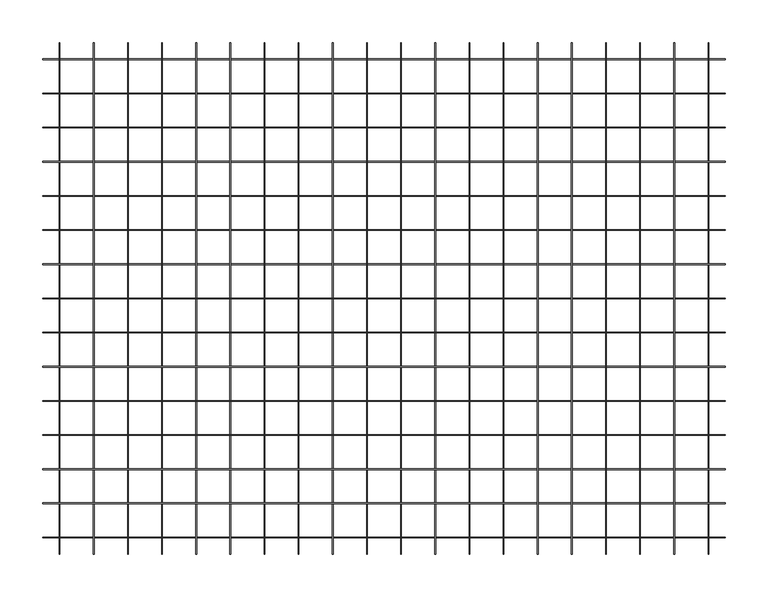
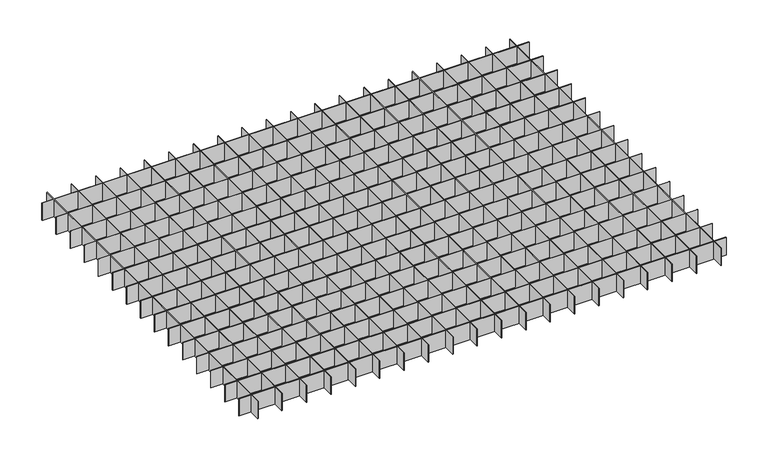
"""IFC4 building model written with IfcOpenShell, lengths in millimetres: proxy geometry, durlum_QUADRA_panel : durlum_QUADRA_length_cut."""

import ifcopenshell
import ifcopenshell.guid

model = None  # the IFC model being written
_history = None  # IfcOwnerHistory: only IFC2X3 demands one
_inside = {}  # id of a spatial element -> (the spatial element, [elements in it])
_under = {}  # id of a project, library or spatial element -> (it, [spatial elements below it])
_declared = {}  # id of a project -> (the project, [libraries it declares])
_typed = {}  # id of a type object -> (the type object, [elements of that type])
_made_of = {}  # id of a material, layer set ... -> (it, [elements and type objects made of it])


def new_model(schema):
    """Start an empty IFC model of exactly this schema.

    Asked for "IFC4X3", IfcOpenShell would pick the latest addendum, in which some entities
    have other attributes; the version numbers below select the first issue.
    IFC2X3 requires an IfcOwnerHistory on every rooted entity: one is made here for all.
    """
    global model, _history
    if schema == "IFC4X3":
        model = ifcopenshell.file(schema_version=(4, 3, 0, 0))
    else:
        model = ifcopenshell.file(schema=schema)
    _inside.clear()
    _under.clear()
    _declared.clear()
    _typed.clear()
    _made_of.clear()
    _history = None
    if model.schema == "IFC2X3":
        org = make("IfcOrganization", Name="unknown")
        user = make(
            "IfcPersonAndOrganization",
            ThePerson=make("IfcPerson", FamilyName="unknown"),
            TheOrganization=org,
        )
        app = make(
            "IfcApplication",
            ApplicationDeveloper=org,
            Version="unknown",
            ApplicationFullName="unknown",
            ApplicationIdentifier="unknown",
        )
        _history = make(
            "IfcOwnerHistory",
            OwningUser=user,
            OwningApplication=app,
            ChangeAction="ADDED",
            CreationDate=0,
        )
    return model


def make(cls, **values):
    """One entity of the class cls with the attributes given. An attribute that is None is left unset."""
    return model.create_entity(
        cls, **{name: value for name, value in values.items() if value is not None}
    )


def rooted(cls, **values):
    """An entity with a GlobalId (a new one), such as an element, a storey or a relation."""
    return make(cls, GlobalId=ifcopenshell.guid.new(), OwnerHistory=_history, **values)


def si_unit(unit_type, name, prefix=None):
    """IfcSIUnit, for example si_unit("LENGTHUNIT", "METRE", prefix="MILLI")."""
    return make("IfcSIUnit", UnitType=unit_type, Prefix=prefix, Name=name)


def assignment(units):
    """IfcUnitAssignment: the units of a project."""
    return None if units is None else make("IfcUnitAssignment", Units=units)


def point(xyz):
    """IfcCartesianPoint."""
    return None if xyz is None else make("IfcCartesianPoint", Coordinates=xyz)


def direction(xyz):
    """IfcDirection."""
    return None if xyz is None else make("IfcDirection", DirectionRatios=xyz)


def frame(location, z_axis=None, x_axis=None):
    """IfcAxis2Placement3D, a coordinate frame: its origin and axes. An axis left out is left unset."""
    return make(
        "IfcAxis2Placement3D",
        Location=point(location),
        Axis=direction(z_axis),
        RefDirection=direction(x_axis),
    )


def origin():
    """The frame at (0, 0, 0) with its axes left unset."""
    return frame((0.0, 0.0, 0.0))


def origin_with_axes():
    """The frame at (0, 0, 0) with the z axis (0, 0, 1) and the x axis (1, 0, 0) written out."""
    return frame((0.0, 0.0, 0.0), z_axis=(0.0, 0.0, 1.0), x_axis=(1.0, 0.0, 0.0))


def place(relative_to, where):
    """IfcLocalPlacement: puts the frame where relative to a parent placement (None: the world)."""
    return make(
        "IfcLocalPlacement", PlacementRelTo=relative_to, RelativePlacement=where
    )


def context(
    kind, dimensions, precision=None, world=None, true_north=None, identifier=None
):
    """IfcGeometricRepresentationContext, for example the 3D "Model" context."""
    return make(
        "IfcGeometricRepresentationContext",
        ContextIdentifier=identifier,
        ContextType=kind,
        CoordinateSpaceDimension=dimensions,
        Precision=precision,
        WorldCoordinateSystem=world,
        TrueNorth=true_north,
    )


def project(units=None, contexts=None):
    """IfcProject with its units and contexts."""
    return rooted(
        "IfcProject",
        Name="project",
        RepresentationContexts=contexts,
        UnitsInContext=assignment(units),
    )


def spatial(cls, under=None, at=None, **own):
    """A site, building, storey or space (cls), placed at a placement, below another one or the project."""
    s = rooted(cls, ObjectPlacement=at, **own)
    if under is not None:
        _under.setdefault(under.id(), (under, []))[1].append(s)
    return s


def polyline(points):
    """IfcPolyline through the points."""
    return make("IfcPolyline", Points=[point(p) for p in points])


def outline(outer, holes=None, kind="AREA"):
    """IfcArbitraryClosedProfileDef: a profile drawn as a closed curve; with holes, ...WithVoids."""
    if holes is None:
        return make("IfcArbitraryClosedProfileDef", ProfileType=kind, OuterCurve=outer)
    return make(
        "IfcArbitraryProfileDefWithVoids",
        ProfileType=kind,
        OuterCurve=outer,
        InnerCurves=holes,
    )


def extrude(swept, where, along, depth):
    """IfcExtrudedAreaSolid: the profile swept, set in the frame where, extruded along a direction by depth."""
    return make(
        "IfcExtrudedAreaSolid",
        SweptArea=swept,
        Position=where,
        ExtrudedDirection=direction(along),
        Depth=depth,
    )


def shape(context_of_items, identifier, shape_type, items):
    """IfcShapeRepresentation: the items that make up one representation, for example the "Body"."""
    return make(
        "IfcShapeRepresentation",
        ContextOfItems=context_of_items,
        RepresentationIdentifier=identifier,
        RepresentationType=shape_type,
        Items=items,
    )


def source(mapping_origin, context_of_items, identifier, shape_type, items):
    """IfcRepresentationMap: a shape defined once, which mapped items show again and again."""
    return make(
        "IfcRepresentationMap",
        MappingOrigin=mapping_origin,
        MappedRepresentation=shape(context_of_items, identifier, shape_type, items),
    )


def transform(
    local_origin,
    x_axis=None,
    y_axis=None,
    z_axis=None,
    scale=None,
    scale2=None,
    scale3=None,
    uniform=True,
):
    """IfcCartesianTransformationOperator3D, or its non-uniform kind. x_axis, y_axis, z_axis: its Axis1, 2, 3."""
    if uniform:
        return make(
            "IfcCartesianTransformationOperator3D",
            Axis1=direction(x_axis),
            Axis2=direction(y_axis),
            LocalOrigin=point(local_origin),
            Scale=scale,
            Axis3=direction(z_axis),
        )
    return make(
        "IfcCartesianTransformationOperator3DnonUniform",
        Axis1=direction(x_axis),
        Axis2=direction(y_axis),
        LocalOrigin=point(local_origin),
        Scale=scale,
        Axis3=direction(z_axis),
        Scale2=scale2,
        Scale3=scale3,
    )


def mapped(mapping_source, mapping_target):
    """IfcMappedItem: shows the shape of a source again, moved by a transform."""
    return make(
        "IfcMappedItem", MappingSource=mapping_source, MappingTarget=mapping_target
    )


def made_of(thing, what):
    """Note that an element or type object is made of a material, layer set ...; save() writes the relation."""
    if what is not None:
        _made_of.setdefault(what.id(), (what, []))[1].append(thing)
    return thing


def element(
    cls,
    number,
    at=None,
    inside=None,
    cuts=None,
    type_object=None,
    material=None,
    context=None,
    identifier="Body",
    shape_type=None,
    held_by="IfcProductDefinitionShape",
    body=None,
    shapes=None,
    **own,
):
    """One element of the class cls, such as IfcWall. Its Tag is "e" and its number.

    at: its placement. inside: the storey or other place that contains it. cuts: it is an
    opening in that element (IfcRelVoidsElement). A single representation is given by context,
    identifier, shape_type and body (its items); several are given by shapes. held_by: the class
    of the entity that holds the representations. save() writes the other relations.
    """
    e = rooted(cls, Tag="e%d" % number, ObjectPlacement=at, **own)
    if body is not None:
        shapes = [shape(context, identifier, shape_type, body)]
    if shapes is not None:
        e.Representation = make(held_by, Representations=shapes)
    if inside is not None:
        _inside.setdefault(inside.id(), (inside, []))[1].append(e)
    if cuts is not None:
        rooted(
            "IfcRelVoidsElement", RelatingBuildingElement=cuts, RelatedOpeningElement=e
        )
    if type_object is not None:
        _typed.setdefault(type_object.id(), (type_object, []))[1].append(e)
    return made_of(e, material)


def aggregate(whole, parts):
    """IfcRelAggregates: a whole, such as a stair, and the parts it consists of."""
    return rooted("IfcRelAggregates", RelatingObject=whole, RelatedObjects=parts)


def save(model, path):
    """Write the relations noted so far, then the file.

    IfcRelAggregates (storeys below a building ...), IfcRelContainedInSpatialStructure (elements
    in a storey), IfcRelDefinesByType, IfcRelAssociatesMaterial and IfcRelDeclares: one each for
    every whole, place, type object, material and project.
    """
    for whole, parts in _under.values():
        aggregate(whole, parts)
    for where, things in _inside.values():
        rooted(
            "IfcRelContainedInSpatialStructure",
            RelatedElements=things,
            RelatingStructure=where,
        )
    for kind, things in _typed.values():
        rooted("IfcRelDefinesByType", RelatedObjects=things, RelatingType=kind)
    for what, things in _made_of.values():
        rooted("IfcRelAssociatesMaterial", RelatedObjects=things, RelatingMaterial=what)
    for by, libraries in _declared.values():
        rooted("IfcRelDeclares", RelatingContext=by, RelatedDefinitions=libraries)
    model.write(path)


def generic_models_001e4b3a(model_context):
    return source(origin(), model_context, "Body", "SweptSolid", [
        extrude(outline(polyline([(339.6, 299.5), (340.4, 299.5), (340.4, -299.5), (339.6, -299.5), (339.6, 299.5)])), origin_with_axes(), (0.0, 0.0, 1.0), 30.0),
        extrude(outline(polyline([(299.6, 299.5), (300.4, 299.5), (300.4, -299.5), (299.6, -299.5), (299.6, 299.5)])), origin_with_axes(), (0.0, 0.0, 1.0), 30.0),
        extrude(outline(polyline([(259.6, 299.5), (260.4, 299.5), (260.4, -299.5), (259.6, -299.5), (259.6, 299.5)])), origin_with_axes(), (0.0, 0.0, 1.0), 30.0),
        extrude(outline(polyline([(219.6, 299.5), (220.4, 299.5), (220.4, -299.5), (219.6, -299.5), (219.6, 299.5)])), origin_with_axes(), (0.0, 0.0, 1.0), 30.0),
        extrude(outline(polyline([(179.6, 299.5), (180.4, 299.5), (180.4, -299.5), (179.6, -299.5), (179.6, 299.5)])), origin_with_axes(), (0.0, 0.0, 1.0), 30.0),
        extrude(outline(polyline([(399.75, -239.6), (399.75, -240.4), (-399.75, -240.4), (-399.75, -239.6), (399.75, -239.6)])), origin_with_axes(), (0.0, 0.0, 1.0), 30.0),
        extrude(outline(polyline([(399.75, -199.6), (399.75, -200.4), (-399.75, -200.4), (-399.75, -199.6), (399.75, -199.6)])), origin_with_axes(), (0.0, 0.0, 1.0), 30.0),
        extrude(outline(polyline([(399.75, -159.6), (399.75, -160.4), (-399.75, -160.4), (-399.75, -159.6), (399.75, -159.6)])), origin_with_axes(), (0.0, 0.0, 1.0), 30.0),
        extrude(outline(polyline([(399.75, -119.6), (399.75, -120.4), (-399.75, -120.4), (-399.75, -119.6), (399.75, -119.6)])), origin_with_axes(), (0.0, 0.0, 1.0), 30.0),
        extrude(outline(polyline([(399.75, -79.6), (399.75, -80.4), (-399.75, -80.4), (-399.75, -79.6), (399.75, -79.6)])), origin_with_axes(), (0.0, 0.0, 1.0), 30.0),
        extrude(outline(polyline([(399.75, -39.6), (399.75, -40.4), (-399.75, -40.4), (-399.75, -39.6), (399.75, -39.6)])), origin_with_axes(), (0.0, 0.0, 1.0), 30.0),
        extrude(outline(polyline([(399.75, 0.4), (399.75, -0.4), (-399.75, -0.4), (-399.75, 0.4), (399.75, 0.4)])), origin_with_axes(), (0.0, 0.0, 1.0), 30.0),
        extrude(outline(polyline([(139.6, 299.5), (140.4, 299.5), (140.4, -299.5), (139.6, -299.5), (139.6, 299.5)])), origin_with_axes(), (0.0, 0.0, 1.0), 30.0),
        extrude(outline(polyline([(99.6, 299.5), (100.4, 299.5), (100.4, -299.5), (99.6, -299.5), (99.6, 299.5)])), origin_with_axes(), (0.0, 0.0, 1.0), 30.0),
        extrude(outline(polyline([(59.6, 299.5), (60.4, 299.5), (60.4, -299.5), (59.6, -299.5), (59.6, 299.5)])), origin_with_axes(), (0.0, 0.0, 1.0), 30.0),
        extrude(outline(polyline([(19.6, 299.5), (20.4, 299.5), (20.4, -299.5), (19.6, -299.5), (19.6, 299.5)])), origin_with_axes(), (0.0, 0.0, 1.0), 30.0),
        extrude(outline(polyline([(-20.4, 299.5), (-19.6, 299.5), (-19.6, -299.5), (-20.4, -299.5), (-20.4, 299.5)])), origin_with_axes(), (0.0, 0.0, 1.0), 30.0),
        extrude(outline(polyline([(-60.4, 299.5), (-59.6, 299.5), (-59.6, -299.5), (-60.4, -299.5), (-60.4, 299.5)])), origin_with_axes(), (0.0, 0.0, 1.0), 30.0),
        extrude(outline(polyline([(-100.4, 299.5), (-99.6, 299.5), (-99.6, -299.5), (-100.4, -299.5), (-100.4, 299.5)])), origin_with_axes(), (0.0, 0.0, 1.0), 30.0),
        extrude(outline(polyline([(-140.4, 299.5), (-139.6, 299.5), (-139.6, -299.5), (-140.4, -299.5), (-140.4, 299.5)])), origin_with_axes(), (0.0, 0.0, 1.0), 30.0),
        extrude(outline(polyline([(-180.4, 299.5), (-179.6, 299.5), (-179.6, -299.5), (-180.4, -299.5), (-180.4, 299.5)])), origin_with_axes(), (0.0, 0.0, 1.0), 30.0),
        extrude(outline(polyline([(-220.4, 299.5), (-219.6, 299.5), (-219.6, -299.5), (-220.4, -299.5), (-220.4, 299.5)])), origin_with_axes(), (0.0, 0.0, 1.0), 30.0),
        extrude(outline(polyline([(-260.4, 299.5), (-259.6, 299.5), (-259.6, -299.5), (-260.4, -299.5), (-260.4, 299.5)])), origin_with_axes(), (0.0, 0.0, 1.0), 30.0),
        extrude(outline(polyline([(-300.4, 299.5), (-299.6, 299.5), (-299.6, -299.5), (-300.4, -299.5), (-300.4, 299.5)])), origin_with_axes(), (0.0, 0.0, 1.0), 30.0),
        extrude(outline(polyline([(-340.4, 299.5), (-339.6, 299.5), (-339.6, -299.5), (-340.4, -299.5), (-340.4, 299.5)])), origin_with_axes(), (0.0, 0.0, 1.0), 30.0),
        extrude(outline(polyline([(399.75, 40.4), (399.75, 39.6), (-399.75, 39.6), (-399.75, 40.4), (399.75, 40.4)])), origin_with_axes(), (0.0, 0.0, 1.0), 30.0),
        extrude(outline(polyline([(399.75, 80.4), (399.75, 79.6), (-399.75, 79.6), (-399.75, 80.4), (399.75, 80.4)])), origin_with_axes(), (0.0, 0.0, 1.0), 30.0),
        extrude(outline(polyline([(399.75, 120.4), (399.75, 119.6), (-399.75, 119.6), (-399.75, 120.4), (399.75, 120.4)])), origin_with_axes(), (0.0, 0.0, 1.0), 30.0),
        extrude(outline(polyline([(399.75, 160.4), (399.75, 159.6), (-399.75, 159.6), (-399.75, 160.4), (399.75, 160.4)])), origin_with_axes(), (0.0, 0.0, 1.0), 30.0),
        extrude(outline(polyline([(399.75, 200.4), (399.75, 199.6), (-399.75, 199.6), (-399.75, 200.4), (399.75, 200.4)])), origin_with_axes(), (0.0, 0.0, 1.0), 30.0),
        extrude(outline(polyline([(399.75, 240.4), (399.75, 239.6), (-399.75, 239.6), (-399.75, 240.4), (399.75, 240.4)])), origin_with_axes(), (0.0, 0.0, 1.0), 30.0),
        extrude(outline(polyline([(379.6, 299.5), (380.4, 299.5), (380.4, -299.5), (379.6, -299.5), (379.6, 299.5)])), origin_with_axes(), (0.0, 0.0, 1.0), 30.0),
        extrude(outline(polyline([(-380.4, 299.5), (-379.6, 299.5), (-379.6, -299.5), (-380.4, -299.5), (-380.4, 299.5)])), origin_with_axes(), (0.0, 0.0, 1.0), 30.0),
        extrude(outline(polyline([(399.75, -279.6), (399.75, -280.4), (-399.75, -280.4), (-399.75, -279.6), (399.75, -279.6)])), origin_with_axes(), (0.0, 0.0, 1.0), 30.0),
        extrude(outline(polyline([(399.75, 280.4), (399.75, 279.6), (-399.75, 279.6), (-399.75, 280.4), (399.75, 280.4)])), origin_with_axes(), (0.0, 0.0, 1.0), 30.0),
    ])


if __name__ == "__main__":
    model = new_model("IFC4")
    model_context = context("Model", 3, world=origin())
    ifc_project = project(units=[si_unit("LENGTHUNIT", "METRE", prefix="MILLI")], contexts=[model_context])
    site = spatial("IfcSite", under=ifc_project)
    building = spatial("IfcBuilding", under=site)
    placement = place(None, origin())
    generic_models_shape = generic_models_001e4b3a(model_context)
    element("IfcBuildingElementProxy", 1, Name="durlum_QUADRA_panel : durlum_QUADRA_length_cut", ObjectType="durlum_QUADRA_panel : durlum_QUADRA_length_cut", at=placement, inside=building, context=model_context, shape_type="MappedRepresentation", body=[
        mapped(generic_models_shape, transform((0.0, 0.0, 0.0), x_axis=(1.0, 0.0, 0.0), y_axis=(0.0, 1.0, 0.0), z_axis=(0.0, 0.0, 1.0))),
    ])
    save(model, "model.ifc")
